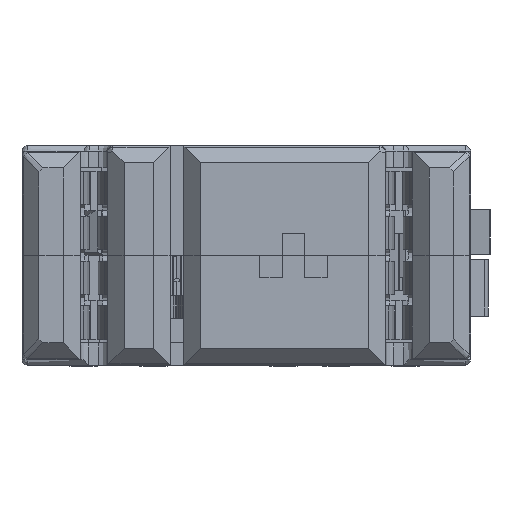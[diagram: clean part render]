
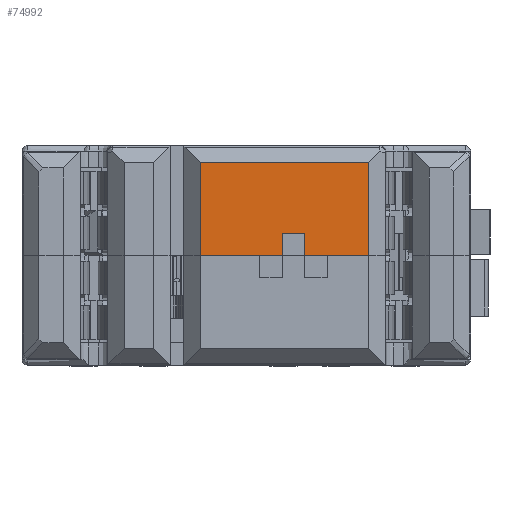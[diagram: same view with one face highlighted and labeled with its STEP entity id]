
A CAD part, front view. The second image highlights one B-rep face of the part: STEP entity #74992.
In plain terms, the highlighted planar face has unit normal (0, -1, 0).
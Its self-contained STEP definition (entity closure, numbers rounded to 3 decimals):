
#476 = EDGE_CURVE ( 'NONE', #13230, #4347, #88908, .T. ) ;
#2698 = VERTEX_POINT ( 'NONE', #6314 ) ;
#3169 = DIRECTION ( 'NONE',  ( -1., 0., 0. ) ) ;
#4285 = CARTESIAN_POINT ( 'NONE',  ( -5.2, -50., 7.4 ) ) ;
#4347 = VERTEX_POINT ( 'NONE', #46683 ) ;
#5435 = CARTESIAN_POINT ( 'NONE',  ( -10.9, -50., 4.9 ) ) ;
#6299 = LINE ( 'NONE', #12986, #61454 ) ;
#6314 = CARTESIAN_POINT ( 'NONE',  ( -5.2, -50., 4.9 ) ) ;
#7211 = CARTESIAN_POINT ( 'NONE',  ( 4.1, -50., 4.9 ) ) ;
#8632 = LINE ( 'NONE', #4285, #56146 ) ;
#10623 = CARTESIAN_POINT ( 'NONE',  ( -3.2, -50., 4.9 ) ) ;
#12986 = CARTESIAN_POINT ( 'NONE',  ( -20., -50., 4.9 ) ) ;
#13230 = VERTEX_POINT ( 'NONE', #17810 ) ;
#14463 = ORIENTED_EDGE ( 'NONE', *, *, #476, .T. ) ;
#15625 = DIRECTION ( 'NONE',  ( 0., 0., -1. ) ) ;
#16091 = EDGE_CURVE ( 'NONE', #85345, #80766, #77272, .T. ) ;
#16614 = VERTEX_POINT ( 'NONE', #5435 ) ;
#17810 = CARTESIAN_POINT ( 'NONE',  ( -3.2, -50., 2.9 ) ) ;
#18184 = VECTOR ( 'NONE', #3169, 1000. ) ;
#19450 = AXIS2_PLACEMENT_3D ( 'NONE', #22731, #36005, #15625 ) ;
#19792 = CARTESIAN_POINT ( 'NONE',  ( -10.9, -50., -3.4 ) ) ;
#20144 = VECTOR ( 'NONE', #62695, 1000. ) ;
#20369 = LINE ( 'NONE', #62837, #76698 ) ;
#21384 = EDGE_CURVE ( 'NONE', #59999, #85345, #75405, .T. ) ;
#22731 = CARTESIAN_POINT ( 'NONE',  ( -20., -50., -4.9 ) ) ;
#24096 = DIRECTION ( 'NONE',  ( 0., 0., 1. ) ) ;
#30212 = DIRECTION ( 'NONE',  ( 0., 0., -1. ) ) ;
#36005 = DIRECTION ( 'NONE',  ( 0., -1., 0. ) ) ;
#38030 = EDGE_CURVE ( 'NONE', #59999, #16614, #76500, .T. ) ;
#41497 = CARTESIAN_POINT ( 'NONE',  ( -20., -50., -3.4 ) ) ;
#42172 = DIRECTION ( 'NONE',  ( -1., 0., 0. ) ) ;
#42431 = LINE ( 'NONE', #86431, #71118 ) ;
#42894 = VERTEX_POINT ( 'NONE', #10623 ) ;
#44041 = PLANE ( 'NONE',  #19450 ) ;
#46683 = CARTESIAN_POINT ( 'NONE',  ( -5.2, -50., 2.9 ) ) ;
#55522 = CARTESIAN_POINT ( 'NONE',  ( -10.9, -50., -4.9 ) ) ;
#56146 = VECTOR ( 'NONE', #74696, 1000. ) ;
#57685 = EDGE_CURVE ( 'NONE', #2698, #4347, #8632, .T. ) ;
#57898 = ORIENTED_EDGE ( 'NONE', *, *, #57685, .F. ) ;
#58801 = VECTOR ( 'NONE', #76955, 1000. ) ;
#59210 = ORIENTED_EDGE ( 'NONE', *, *, #83533, .T. ) ;
#59999 = VERTEX_POINT ( 'NONE', #19792 ) ;
#60320 = CARTESIAN_POINT ( 'NONE',  ( -20., -50., 2.9 ) ) ;
#61389 = EDGE_LOOP ( 'NONE', ( #89422, #72293, #88787, #83105, #59210, #14463, #57898, #72082 ) ) ;
#61454 = VECTOR ( 'NONE', #69541, 1000. ) ;
#62695 = DIRECTION ( 'NONE',  ( 0., 0., 1. ) ) ;
#62837 = CARTESIAN_POINT ( 'NONE',  ( -20., -50., 4.9 ) ) ;
#69541 = DIRECTION ( 'NONE',  ( -1., 0., 0. ) ) ;
#71118 = VECTOR ( 'NONE', #30212, 1000. ) ;
#71722 = VECTOR ( 'NONE', #24096, 1000. ) ;
#72082 = ORIENTED_EDGE ( 'NONE', *, *, #78571, .T. ) ;
#72293 = ORIENTED_EDGE ( 'NONE', *, *, #21384, .T. ) ;
#72598 = CARTESIAN_POINT ( 'NONE',  ( 4.1, -50., -4.9 ) ) ;
#74696 = DIRECTION ( 'NONE',  ( 0., 0., -1. ) ) ;
#74992 = ADVANCED_FACE ( 'NONE', ( #80311 ), #44041, .T. ) ;
#75040 = CARTESIAN_POINT ( 'NONE',  ( 4.1, -50., -3.4 ) ) ;
#75405 = LINE ( 'NONE', #41497, #58801 ) ;
#76500 = LINE ( 'NONE', #55522, #20144 ) ;
#76698 = VECTOR ( 'NONE', #42172, 1000. ) ;
#76955 = DIRECTION ( 'NONE',  ( 1., 0., 0. ) ) ;
#77272 = LINE ( 'NONE', #72598, #71722 ) ;
#78571 = EDGE_CURVE ( 'NONE', #2698, #16614, #20369, .T. ) ;
#79022 = EDGE_CURVE ( 'NONE', #80766, #42894, #6299, .T. ) ;
#80311 = FACE_OUTER_BOUND ( 'NONE', #61389, .T. ) ;
#80766 = VERTEX_POINT ( 'NONE', #7211 ) ;
#83105 = ORIENTED_EDGE ( 'NONE', *, *, #79022, .T. ) ;
#83533 = EDGE_CURVE ( 'NONE', #42894, #13230, #42431, .T. ) ;
#85345 = VERTEX_POINT ( 'NONE', #75040 ) ;
#86431 = CARTESIAN_POINT ( 'NONE',  ( -3.2, -50., 20.009 ) ) ;
#88787 = ORIENTED_EDGE ( 'NONE', *, *, #16091, .T. ) ;
#88908 = LINE ( 'NONE', #60320, #18184 ) ;
#89422 = ORIENTED_EDGE ( 'NONE', *, *, #38030, .F. ) ;
